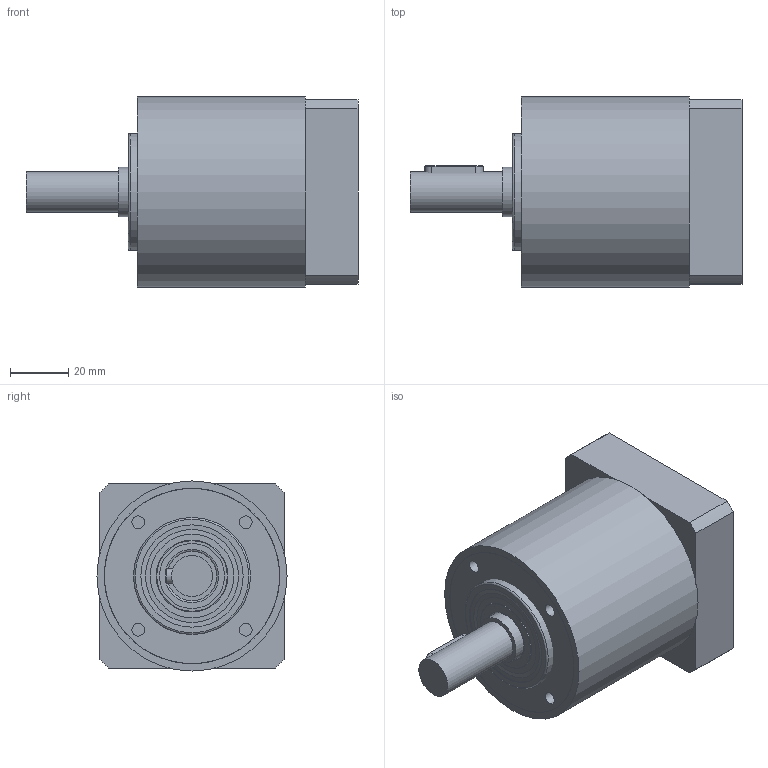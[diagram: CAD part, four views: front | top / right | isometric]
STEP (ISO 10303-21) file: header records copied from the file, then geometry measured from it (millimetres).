
FILE_DESCRIPTION(/* description */ (''),/* implementation_level */ '2;1');
FILE_NAME(/* name */ 'E00018065441MP050509104308_step203.stp',/* time_stamp */ '2009-05-05T10:44:29+02:00',/* author */ (''),/* organization */ (''),/* preprocessor_version */ 'ST-DEVELOPER v11',/* originating_system */ 'UGS - NX 5.0',/* authorisation */ '');
FILE_SCHEMA (('CONFIG_CONTROL_DESIGN'));
Length unit declared in the file: millimetre
Products named in the file (1): E00018065441MP050509104308_M
Bounding box: 113.55 x 65 x 65 mm (x, y, z)
Volume: 321629.8 mm3; surface area: 71095 mm2
Topology: 12 solids, 12 shells, 142 faces, 302 edges, 192 vertices
Faces by surface type: cylinder 53, plane 50, cone 29, torus 10
Full cylindrical faces by diameter (mm): 3.432 x5, 4.351 x8, 4.5 x1, 7.5 x1, 9.75 x1, 11 x1, 14 x1, 15 x1, 17 x2, 22.2 x2, 24.5 x2, 32.9 x2, 35 x4, 35.5 x1, 40 x1, 43 x1, 50 x1, 57.4 x1, 59.85 x1, 60 x3, 65 x1
Entity records: 3457 total; most frequent: CARTESIAN_POINT 640, DIRECTION 604, ORIENTED_EDGE 402, AXIS2_PLACEMENT_3D 269, EDGE_LOOP 239, FACE_BOUND 206, EDGE_CURVE 201, VERTEX_POINT 176
